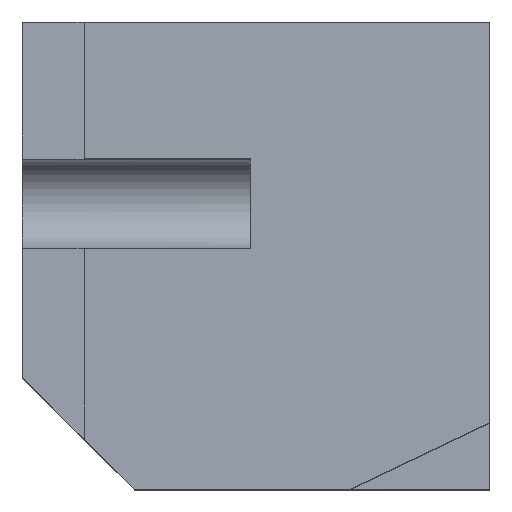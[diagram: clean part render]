
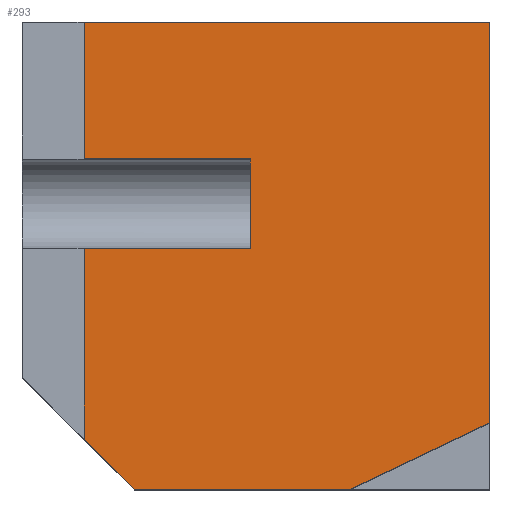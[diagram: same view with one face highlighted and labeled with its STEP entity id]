
A CAD part, top view. The second image highlights one B-rep face of the part: STEP entity #293.
In plain terms, the highlighted planar face has unit normal (0, 0, 1).
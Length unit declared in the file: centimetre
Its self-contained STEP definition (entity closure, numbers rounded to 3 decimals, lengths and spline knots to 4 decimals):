
#2 = VECTOR ( 'NONE', #414, 100. ) ;
#18 = LINE ( 'NONE', #590, #180 ) ;
#22 = LINE ( 'NONE', #179, #2 ) ;
#35 = DIRECTION ( 'NONE',  ( 0., 1., 0. ) ) ;
#38 = EDGE_CURVE ( 'NONE', #638, #168, #376, .T. ) ;
#41 = CARTESIAN_POINT ( 'NONE',  ( 487.8643, 515.6191, 1000. ) ) ;
#51 = VECTOR ( 'NONE', #412, 100. ) ;
#59 = EDGE_CURVE ( 'NONE', #188, #483, #691, .T. ) ;
#63 = VECTOR ( 'NONE', #612, 100. ) ;
#71 = DIRECTION ( 'NONE',  ( -1., 0., 0. ) ) ;
#74 = CARTESIAN_POINT ( 'NONE',  ( 1000., 1000., 1000. ) ) ;
#79 = ORIENTED_EDGE ( 'NONE', *, *, #375, .T. ) ;
#86 = ORIENTED_EDGE ( 'NONE', *, *, #301, .T. ) ;
#88 = EDGE_CURVE ( 'NONE', #586, #483, #18, .T. ) ;
#116 = CARTESIAN_POINT ( 'NONE',  ( 131.9866, 515.6191, 1000. ) ) ;
#134 = LINE ( 'NONE', #309, #710 ) ;
#154 = VERTEX_POINT ( 'NONE', #116 ) ;
#164 = FACE_OUTER_BOUND ( 'NONE', #594, .T. ) ;
#165 = VECTOR ( 'NONE', #323, 100. ) ;
#168 = VERTEX_POINT ( 'NONE', #512 ) ;
#179 = CARTESIAN_POINT ( 'NONE',  ( 487.8643, 706.7823, 1000. ) ) ;
#180 = VECTOR ( 'NONE', #71, 100. ) ;
#188 = VERTEX_POINT ( 'NONE', #410 ) ;
#193 = CARTESIAN_POINT ( 'NONE',  ( 131.9866, 0., 1000. ) ) ;
#203 = DIRECTION ( 'NONE',  ( -0.902, -0.431, 0. ) ) ;
#205 = VERTEX_POINT ( 'NONE', #447 ) ;
#211 = AXIS2_PLACEMENT_3D ( 'NONE', #283, #736, #508 ) ;
#237 = EDGE_CURVE ( 'NONE', #509, #168, #134, .T. ) ;
#258 = LINE ( 'NONE', #74, #435 ) ;
#271 = CARTESIAN_POINT ( 'NONE',  ( 131.9866, 107.1003, 1000. ) ) ;
#278 = VERTEX_POINT ( 'NONE', #448 ) ;
#283 = CARTESIAN_POINT ( 'NONE',  ( 0., 0., 1000. ) ) ;
#293 = ADVANCED_FACE ( 'NONE', ( #164 ), #333, .T. ) ;
#300 = ORIENTED_EDGE ( 'NONE', *, *, #59, .F. ) ;
#301 = EDGE_CURVE ( 'NONE', #278, #205, #344, .T. ) ;
#309 = CARTESIAN_POINT ( 'NONE',  ( 1000., 142.3234, 1000. ) ) ;
#319 = CARTESIAN_POINT ( 'NONE',  ( 131.9866, 1000., 1000. ) ) ;
#323 = DIRECTION ( 'NONE',  ( 1., 0., 0. ) ) ;
#324 = ORIENTED_EDGE ( 'NONE', *, *, #433, .F. ) ;
#327 = VECTOR ( 'NONE', #35, 100. ) ;
#333 = PLANE ( 'NONE',  #211 ) ;
#334 = ORIENTED_EDGE ( 'NONE', *, *, #486, .F. ) ;
#344 = LINE ( 'NONE', #662, #539 ) ;
#356 = DIRECTION ( 'NONE',  ( 0., 1., 0. ) ) ;
#359 = EDGE_CURVE ( 'NONE', #569, #638, #666, .T. ) ;
#375 = EDGE_CURVE ( 'NONE', #509, #586, #258, .T. ) ;
#376 = LINE ( 'NONE', #596, #165 ) ;
#384 = CARTESIAN_POINT ( 'NONE',  ( 239.0869, 0., 1000. ) ) ;
#410 = CARTESIAN_POINT ( 'NONE',  ( 131.9866, 706.7823, 1000. ) ) ;
#412 = DIRECTION ( 'NONE',  ( 0.707, -0.707, 0. ) ) ;
#414 = DIRECTION ( 'NONE',  ( -1., 0., 0. ) ) ;
#427 = ORIENTED_EDGE ( 'NONE', *, *, #703, .T. ) ;
#433 = EDGE_CURVE ( 'NONE', #278, #188, #22, .T. ) ;
#435 = VECTOR ( 'NONE', #356, 100. ) ;
#447 = CARTESIAN_POINT ( 'NONE',  ( 487.8643, 515.6191, 1000. ) ) ;
#448 = CARTESIAN_POINT ( 'NONE',  ( 487.8643, 706.7823, 1000. ) ) ;
#481 = DIRECTION ( 'NONE',  ( 0., 1., 0. ) ) ;
#482 = LINE ( 'NONE', #701, #327 ) ;
#483 = VERTEX_POINT ( 'NONE', #319 ) ;
#486 = EDGE_CURVE ( 'NONE', #569, #154, #482, .T. ) ;
#495 = ORIENTED_EDGE ( 'NONE', *, *, #38, .T. ) ;
#508 = DIRECTION ( 'NONE',  ( 1., 0., 0. ) ) ;
#509 = VERTEX_POINT ( 'NONE', #637 ) ;
#512 = CARTESIAN_POINT ( 'NONE',  ( 702.1869, 0., 1000. ) ) ;
#532 = CARTESIAN_POINT ( 'NONE',  ( 1000., 1000., 1000. ) ) ;
#539 = VECTOR ( 'NONE', #565, 100. ) ;
#558 = ORIENTED_EDGE ( 'NONE', *, *, #237, .F. ) ;
#561 = CARTESIAN_POINT ( 'NONE',  ( 119.5435, 119.5435, 1000. ) ) ;
#565 = DIRECTION ( 'NONE',  ( 0., -1., 0. ) ) ;
#569 = VERTEX_POINT ( 'NONE', #271 ) ;
#586 = VERTEX_POINT ( 'NONE', #532 ) ;
#590 = CARTESIAN_POINT ( 'NONE',  ( 0., 1000., 1000. ) ) ;
#594 = EDGE_LOOP ( 'NONE', ( #558, #79, #657, #300, #324, #86, #427, #334, #614, #495 ) ) ;
#596 = CARTESIAN_POINT ( 'NONE',  ( 0., 0., 1000. ) ) ;
#608 = LINE ( 'NONE', #41, #63 ) ;
#612 = DIRECTION ( 'NONE',  ( -1., 0., 0. ) ) ;
#614 = ORIENTED_EDGE ( 'NONE', *, *, #359, .T. ) ;
#637 = CARTESIAN_POINT ( 'NONE',  ( 1000., 142.3234, 1000. ) ) ;
#638 = VERTEX_POINT ( 'NONE', #384 ) ;
#656 = VECTOR ( 'NONE', #481, 100. ) ;
#657 = ORIENTED_EDGE ( 'NONE', *, *, #88, .T. ) ;
#662 = CARTESIAN_POINT ( 'NONE',  ( 487.8643, 0., 1000. ) ) ;
#666 = LINE ( 'NONE', #561, #51 ) ;
#691 = LINE ( 'NONE', #193, #656 ) ;
#701 = CARTESIAN_POINT ( 'NONE',  ( 131.9866, 0., 1000. ) ) ;
#703 = EDGE_CURVE ( 'NONE', #205, #154, #608, .T. ) ;
#710 = VECTOR ( 'NONE', #203, 100. ) ;
#736 = DIRECTION ( 'NONE',  ( 0., 0., 1. ) ) ;
